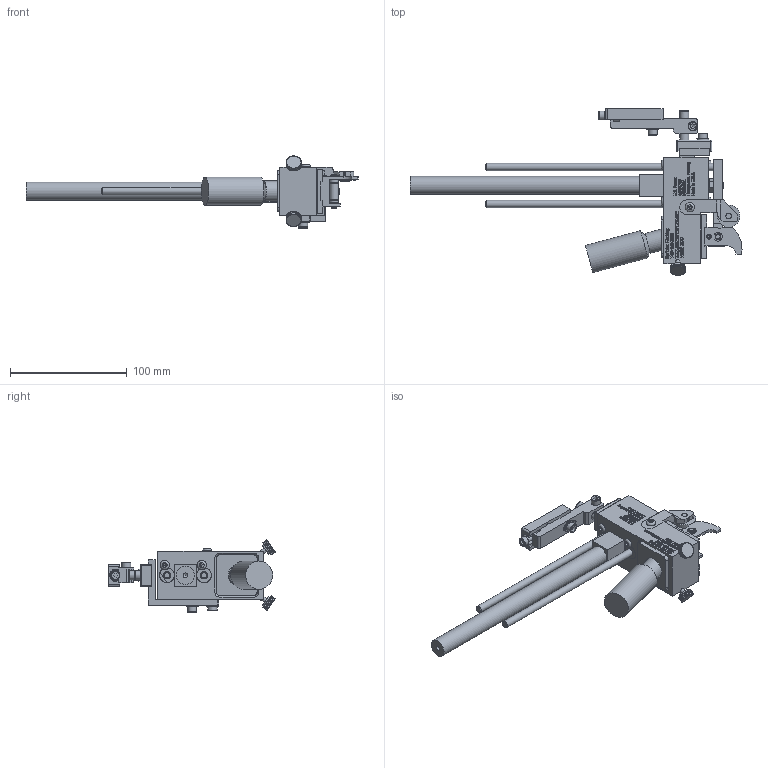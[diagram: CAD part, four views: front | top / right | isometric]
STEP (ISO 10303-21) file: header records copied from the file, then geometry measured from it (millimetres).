
FILE_DESCRIPTION((''),'2;1');
FILE_NAME('C:\Documents and Settings\Ron\My Documents\Inventor\Sprinter Drawing\Machines in Inventor\Model 1010\Type\Ext Str\E4\Brkt\Ret\Model 1010 ES 4 ret w brkt.stp','2009-01-27T12:27:32',('Ron'),(''),'Autodesk Inventor 2008','Autodesk Inventor 2008','');
FILE_SCHEMA(('AUTOMOTIVE_DESIGN { 1 0 10303 214 1 1 1 1 }'));
Length unit declared in the file: inch
Products named in the file (1): Model 1010 ES 4 ret w brkt
Bounding box: 284.56 x 142.74 x 61.82 mm (x, y, z)
Volume: 261676.2 mm3; surface area: 90045.2 mm2
Topology: 385 solids, 385 shells, 6612 faces, 16490 edges, 10228 vertices
Faces by surface type: plane 4582, bspline 1380, cylinder 550, cone 75, torus 21, sphere 4
Full cylindrical faces by diameter (mm): 2.845 x1, 3.175 x1, 3.505 x1, 3.708 x2, 4.064 x2, 4.166 x5, 4.75 x5, 4.775 x2, 4.826 x10, 5.08 x1, 5.156 x3, 6.223 x2, 6.325 x2, 6.35 x2, 6.604 x1, 6.68 x1, 6.858 x2, 7.62 x2, 7.925 x11, 7.938 x1, 9.017 x1, 9.525 x2, 10.312 x4, 10.922 x1, 15.494 x1, 17.526 x1, 19.05 x1, 24.13 x1
Entity records: 206642 total; most frequent: CARTESIAN_POINT 56630, ORIENTED_EDGE 32334, DIRECTION 25259, EDGE_CURVE 16167, VECTOR 12037, LINE 12037, VERTEX_POINT 10120, EDGE_LOOP 7231
